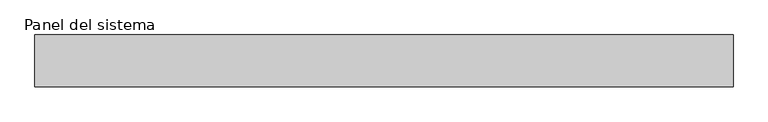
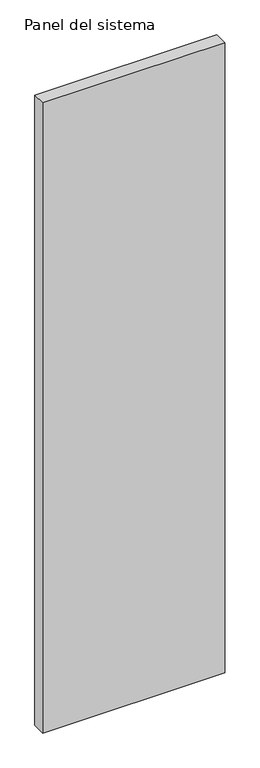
"""IFC4 building model written with IfcOpenShell, lengths in millimetres: plate geometry, Panel del sistema : HIANSA PANEL - PANELES DE CUBIERTA - PANEL TEJA - Esp. 20mm."""

from ifc_helpers import new_model, si_unit, origin, origin_with_axes, place, context, project, spatial, polyline, outline, extrude, source, transform, mapped, element, save


def panel_del_sistema_1a508368(model_context):
    return source(origin(), model_context, "Body", "SweptSolid", [
        extrude(outline(polyline([(500.0000002, 0.0), (-500.0000002, 0.0), (-500.0000002, 74.0), (500.0000002, 74.0), (500.0000002, 0.0)])), origin_with_axes(), (0.0, 0.0, 1.0), 3660.0),
    ])


if __name__ == "__main__":
    model = new_model("IFC4")
    model_context = context("Model", 3, world=origin())
    ifc_project = project(units=[si_unit("LENGTHUNIT", "METRE", prefix="MILLI")], contexts=[model_context])
    site = spatial("IfcSite", under=ifc_project)
    building = spatial("IfcBuilding", under=site)
    placement = place(None, origin())
    panel_del_sistema_shape = panel_del_sistema_1a508368(model_context)
    element("IfcPlate", 1, ObjectType="Panel del sistema : HIANSA PANEL - PANELES DE CUBIERTA - PANEL TEJA - Esp. 20mm", at=placement, inside=building, context=model_context, shape_type="MappedRepresentation", body=[
        mapped(panel_del_sistema_shape, transform((0.0, 0.0, 0.0), x_axis=(1.0, 0.0, 0.0), y_axis=(0.0, 1.0, 0.0), z_axis=(0.0, 0.0, 1.0))),
    ])
    save(model, "model.ifc")
